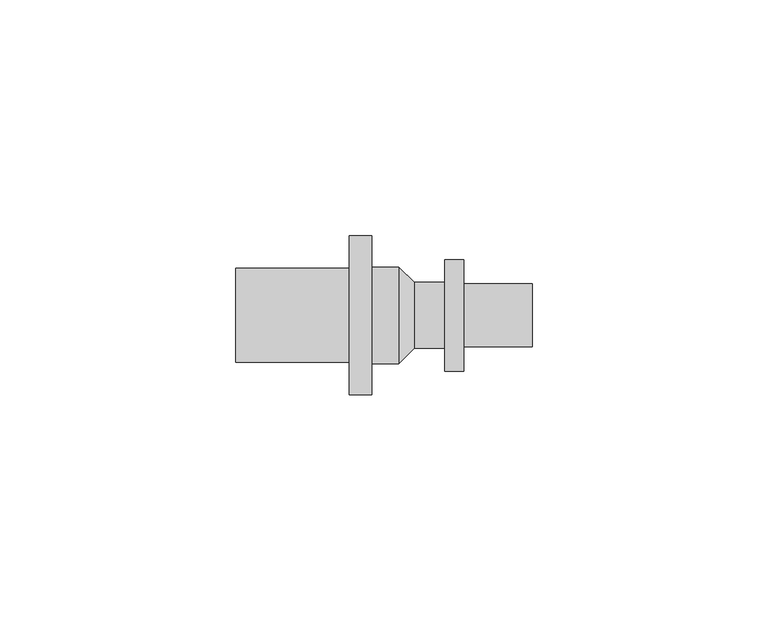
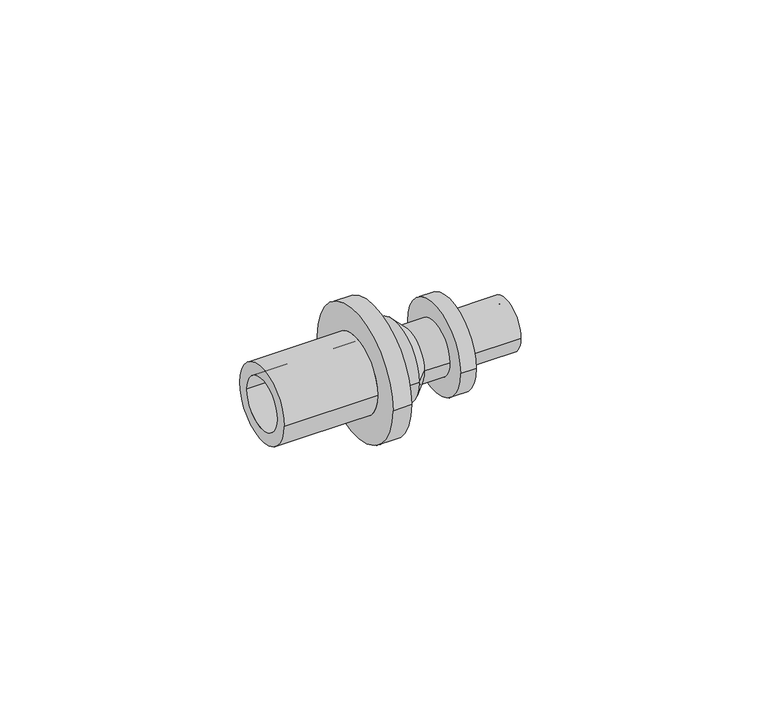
"""IFC4 building model written with IfcOpenShell, lengths in millimetres: pipe fitting geometry, RAUTITAN_Transition_PX : RTI PX Tr DE."""

from ifc_helpers import new_model, si_unit, frame, origin, place, context, project, spatial, polyline, circle_curve, source, transform, mapped, element, save
from ifc_brep_helpers import plane_surface, cylinder_surface, revolved_surface, advanced_brep


def pipe_fitting_32b6f711(model_context):
    return source(origin(), model_context, "Body", "AdvancedBrep", [
        advanced_brep(
        [(-36.15, 6.75, 0.0), (-36.15, -6.75, 0.0), (-1.125, -6.75, 0.0), (-1.125, 6.75, 0.0), (-1.625, 10.25, 0.0), (-1.625, -10.25, 0.0), (-7.35, -10.25, 0.0), (-7.35, 10.25, 0.0), (1.625, 7.0, 0.0), (1.625, -7.0, 0.0), (8.15, 7.0, 0.0), (8.15, -7.0, 0.0), (12.15, 11.8, 0.0), (12.15, -11.8, 0.0), (8.15, -11.8, 0.0), (8.15, 11.8, 0.0), (26.65, 6.7, 0.0), (26.65, -6.7, 0.0), (12.15, -6.7, 0.0), (12.15, 6.7, 0.0), (1.125, 4.5, 0.0), (1.125, -4.5, 0.0), (26.65, -4.5, 0.0), (26.65, 4.5, 0.0), (-7.35, 16.85, 0.0), (-7.35, -16.85, 0.0), (-12.15, 9.95, 0.0), (-12.15, -9.95, 0.0), (-36.15, -9.95, 0.0), (-36.15, 9.95, 0.0), (-12.15, -16.85, 0.0), (-12.15, 16.85, 0.0)],
        [
            (0, 1, circle_curve(frame((-36.15, 0.0, 0.0), z_axis=(-1.0, 0.0, 0.0), x_axis=(0.0, -1.0, 0.0)), 6.75)),
            (1, 2),
            (2, 3, circle_curve(frame((-1.125, 0.0, 0.0), z_axis=(1.0, 0.0, 0.0), x_axis=(0.0, -1.0, 0.0)), 6.75)),
            (3, 0),
            (4, 5, circle_curve(frame((-1.625, 0.0, 0.0), z_axis=(-1.0, 0.0, 0.0), x_axis=(0.0, -1.0, 0.0)), 10.25)),
            (5, 6),
            (6, 7, circle_curve(frame((-7.35, 0.0, 0.0), z_axis=(1.0, 0.0, 0.0), x_axis=(0.0, -1.0, 0.0)), 10.25)),
            (7, 4),
            (8, 9, circle_curve(frame((1.625, 0.0, 0.0), z_axis=(-1.0, 0.0, 0.0), x_axis=(0.0, -1.0, 0.0)), 7.0)),
            (9, 5),
            (4, 8),
            (10, 11, circle_curve(frame((8.15, 0.0, 0.0), z_axis=(-1.0, 0.0, 0.0), x_axis=(0.0, -1.0, 0.0)), 7.0)),
            (11, 9),
            (8, 10),
            (12, 13, circle_curve(frame((12.15, 0.0, 0.0), z_axis=(-1.0, 0.0, 0.0), x_axis=(0.0, -1.0, 0.0)), 11.8)),
            (13, 14),
            (14, 15, circle_curve(frame((8.15, 0.0, 0.0), z_axis=(1.0, 0.0, 0.0), x_axis=(0.0, -1.0, 0.0)), 11.8)),
            (15, 12),
            (16, 17, circle_curve(frame((26.65, 0.0, 0.0), z_axis=(-1.0, 0.0, 0.0), x_axis=(0.0, -1.0, 0.0)), 6.7)),
            (17, 18),
            (18, 19, circle_curve(frame((12.15, 0.0, 0.0), z_axis=(1.0, 0.0, 0.0), x_axis=(0.0, -1.0, 0.0)), 6.7)),
            (19, 16),
            (20, 21, circle_curve(frame((1.125, 0.0, 0.0), z_axis=(-1.0, 0.0, 0.0), x_axis=(0.0, -1.0, 0.0)), 4.5)),
            (21, 22),
            (22, 23, circle_curve(frame((26.65, 0.0, 0.0), z_axis=(1.0, 0.0, 0.0), x_axis=(0.0, -1.0, 0.0)), 4.5)),
            (23, 20),
            (2, 21),
            (20, 3),
            (1, 0, circle_curve(frame((-36.15, 0.0, 0.0), z_axis=(-1.0, 0.0, 0.0), x_axis=(0.0, 1.0, 0.0)), 6.75)),
            (3, 2, circle_curve(frame((-1.125, 0.0, 0.0), z_axis=(1.0, 0.0, 0.0), x_axis=(0.0, 1.0, 0.0)), 6.75)),
            (24, 25, circle_curve(frame((-7.35, 0.0, 0.0), z_axis=(1.0, 0.0, 0.0), x_axis=(0.0, 1.0, 0.0)), 16.85)),
            (25, 24, circle_curve(frame((-7.35, 0.0, 0.0), z_axis=(1.0, 0.0, 0.0), x_axis=(0.0, -1.0, 0.0)), 16.85)),
            (6, 7, circle_curve(frame((-7.35, 0.0, 0.0), z_axis=(-1.0, 0.0, 0.0), x_axis=(0.0, 1.0, 0.0)), 10.25)),
            (5, 4, circle_curve(frame((-1.625, 0.0, 0.0), z_axis=(-1.0, 0.0, 0.0), x_axis=(0.0, 1.0, 0.0)), 10.25)),
            (9, 8, circle_curve(frame((1.625, 0.0, 0.0), z_axis=(-1.0, 0.0, 0.0), x_axis=(0.0, 1.0, 0.0)), 7.0)),
            (11, 10, circle_curve(frame((8.15, 0.0, 0.0), z_axis=(-1.0, 0.0, 0.0), x_axis=(0.0, 1.0, 0.0)), 7.0)),
            (14, 15, circle_curve(frame((8.15, 0.0, 0.0), z_axis=(-1.0, 0.0, 0.0), x_axis=(0.0, 1.0, 0.0)), 11.8)),
            (13, 12, circle_curve(frame((12.15, 0.0, 0.0), z_axis=(-1.0, 0.0, 0.0), x_axis=(0.0, 1.0, 0.0)), 11.8)),
            (18, 19, circle_curve(frame((12.15, 0.0, 0.0), z_axis=(-1.0, 0.0, 0.0), x_axis=(0.0, 1.0, 0.0)), 6.7)),
            (17, 16, circle_curve(frame((26.65, 0.0, 0.0), z_axis=(-1.0, 0.0, 0.0), x_axis=(0.0, 1.0, 0.0)), 6.7)),
            (22, 23, circle_curve(frame((26.65, 0.0, 0.0), z_axis=(-1.0, 0.0, 0.0), x_axis=(0.0, 1.0, 0.0)), 4.5)),
            (21, 20, circle_curve(frame((1.125, 0.0, 0.0), z_axis=(-1.0, 0.0, 0.0), x_axis=(0.0, 1.0, 0.0)), 4.5)),
            (26, 27, circle_curve(frame((-12.15, 0.0, 0.0), z_axis=(-1.0, 0.0, 0.0), x_axis=(0.0, -1.0, 0.0)), 9.95)),
            (27, 28),
            (28, 29, circle_curve(frame((-36.15, 0.0, 0.0), z_axis=(1.0, 0.0, 0.0), x_axis=(0.0, -1.0, 0.0)), 9.95)),
            (29, 26),
            (25, 30),
            (30, 31, circle_curve(frame((-12.15, 0.0, 0.0), z_axis=(1.0, 0.0, 0.0), x_axis=(0.0, -1.0, 0.0)), 16.85)),
            (31, 24),
            (28, 29, circle_curve(frame((-36.15, 0.0, 0.0), z_axis=(-1.0, 0.0, 0.0), x_axis=(0.0, 1.0, 0.0)), 9.95)),
            (27, 26, circle_curve(frame((-12.15, 0.0, 0.0), z_axis=(-1.0, 0.0, 0.0), x_axis=(0.0, 1.0, 0.0)), 9.95)),
            (30, 31, circle_curve(frame((-12.15, 0.0, 0.0), z_axis=(-1.0, 0.0, 0.0), x_axis=(0.0, 1.0, 0.0)), 16.85)),
        ],
        [
            revolved_surface(polyline([(-1.125, -6.75, 0.0), (-36.15, -6.75, 0.0)]), (0.0, 0.0, 0.0), (1.0, 0.0, 0.0)),
            cylinder_surface(frame((0.0, 0.0, 0.0), z_axis=(1.0, 0.0, 0.0), x_axis=(0.0, -1.0, 0.0)), 10.25),
            revolved_surface(polyline([(-1.625, -10.25, 0.0), (1.625, -7.0, 0.0)]), (0.0, 0.0, 0.0), (1.0, 0.0, 0.0)),
            cylinder_surface(frame((0.0, 0.0, 0.0), z_axis=(1.0, 0.0, 0.0), x_axis=(0.0, -1.0, 0.0)), 7.0),
            cylinder_surface(frame((0.0, 0.0, 0.0), z_axis=(1.0, 0.0, 0.0), x_axis=(0.0, -1.0, 0.0)), 11.8),
            cylinder_surface(frame((0.0, 0.0, 0.0), z_axis=(1.0, 0.0, 0.0), x_axis=(0.0, -1.0, 0.0)), 6.7),
            revolved_surface(polyline([(26.65, -4.5, 0.0), (1.125, -4.5, 0.0)]), (0.0, 0.0, 0.0), (1.0, 0.0, 0.0)),
            revolved_surface(polyline([(1.125, -4.5, 0.0), (-1.125, -6.75, 0.0)]), (0.0, 0.0, 0.0), (1.0, 0.0, 0.0)),
            revolved_surface(polyline([(-1.125, 6.75, 0.0), (-36.15, 6.75, 0.0)]), (0.0, 0.0, 0.0), (1.0, 0.0, 0.0)),
            plane_surface(frame((-7.35, 0.0, 0.0), z_axis=(1.0, 0.0, 0.0), x_axis=(0.0, 1.0, 0.0))),
            cylinder_surface(frame((0.0, 0.0, 0.0), z_axis=(1.0, 0.0, 0.0), x_axis=(0.0, 1.0, 0.0)), 10.25),
            revolved_surface(polyline([(-1.625, 10.25, 0.0), (1.625, 7.0, 0.0)]), (0.0, 0.0, 0.0), (1.0, 0.0, 0.0)),
            cylinder_surface(frame((0.0, 0.0, 0.0), z_axis=(1.0, 0.0, 0.0), x_axis=(0.0, 1.0, 0.0)), 7.0),
            plane_surface(frame((8.15, 0.0, 0.0), z_axis=(-1.0, 0.0, 0.0), x_axis=(0.0, 1.0, 0.0))),
            cylinder_surface(frame((0.0, 0.0, 0.0), z_axis=(1.0, 0.0, 0.0), x_axis=(0.0, 1.0, 0.0)), 11.8),
            plane_surface(frame((12.15, 0.0, 0.0), z_axis=(1.0, 0.0, 0.0), x_axis=(0.0, 1.0, 0.0))),
            cylinder_surface(frame((0.0, 0.0, 0.0), z_axis=(1.0, 0.0, 0.0), x_axis=(0.0, 1.0, 0.0)), 6.7),
            plane_surface(frame((26.65, 0.0, 0.0), z_axis=(1.0, 0.0, 0.0), x_axis=(0.0, 1.0, 0.0))),
            revolved_surface(polyline([(26.65, 4.5, 0.0), (1.125, 4.5, 0.0)]), (0.0, 0.0, 0.0), (1.0, 0.0, 0.0)),
            revolved_surface(polyline([(1.125, 4.5, 0.0), (-1.125, 6.75, 0.0)]), (0.0, 0.0, 0.0), (1.0, 0.0, 0.0)),
            cylinder_surface(frame((0.0, 0.0, 0.0), z_axis=(1.0, 0.0, 0.0), x_axis=(0.0, -1.0, 0.0)), 9.95),
            cylinder_surface(frame((0.0, 0.0, 0.0), z_axis=(1.0, 0.0, 0.0), x_axis=(0.0, -1.0, 0.0)), 16.85),
            plane_surface(frame((-36.15, 0.0, 0.0), z_axis=(-1.0, 0.0, 0.0), x_axis=(0.0, 1.0, 0.0))),
            cylinder_surface(frame((0.0, 0.0, 0.0), z_axis=(1.0, 0.0, 0.0), x_axis=(0.0, 1.0, 0.0)), 9.95),
            plane_surface(frame((-12.15, 0.0, 0.0), z_axis=(-1.0, 0.0, 0.0), x_axis=(0.0, 1.0, 0.0))),
            cylinder_surface(frame((0.0, 0.0, 0.0), z_axis=(1.0, 0.0, 0.0), x_axis=(0.0, 1.0, 0.0)), 16.85),
        ],
        [
            (0, [[1, 2, 3, 4]]),
            (1, [[5, 6, 7, 8]]),
            (2, [[9, 10, -5, 11]]),
            (3, [[12, 13, -9, 14]]),
            (4, [[15, 16, 17, 18]]),
            (5, [[19, 20, 21, 22]]),
            (6, [[23, 24, 25, 26]]),
            (7, [[-3, 27, -23, 28]]),
            (8, [[29, -4, 30, -2]]),
            (9, [[31, 32], [33, -7]]),
            (10, [[34, -8, -33, -6]]),
            (11, [[35, -11, -34, -10]]),
            (12, [[36, -14, -35, -13]]),
            (13, [[37, -17], [-36, -12]]),
            (14, [[38, -18, -37, -16]]),
            (15, [[-38, -15], [39, -21]]),
            (16, [[40, -22, -39, -20]]),
            (17, [[-40, -19], [41, -25]]),
            (18, [[42, -26, -41, -24]]),
            (19, [[-30, -28, -42, -27]]),
            (20, [[43, 44, 45, 46]]),
            (21, [[-32, 47, 48, 49]]),
            (22, [[50, -45], [-29, -1]]),
            (23, [[51, -46, -50, -44]]),
            (24, [[52, -48], [-51, -43]]),
            (25, [[-31, -49, -52, -47]]),
        ],
    ),
    ])


if __name__ == "__main__":
    model = new_model("IFC4")
    model_context = context("Model", 3, world=origin())
    ifc_project = project(units=[si_unit("LENGTHUNIT", "METRE", prefix="MILLI")], contexts=[model_context])
    site = spatial("IfcSite", under=ifc_project)
    building = spatial("IfcBuilding", under=site)
    placement = place(None, origin())
    pipe_fitting_shape = pipe_fitting_32b6f711(model_context)
    element("IfcPipeFitting", 1, ObjectType="RAUTITAN_Transition_PX : RTI PX Tr DE", at=placement, inside=building, context=model_context, shape_type="MappedRepresentation", body=[
        mapped(pipe_fitting_shape, transform((0.0, 0.0, 0.0), x_axis=(1.0, 0.0, 0.0), y_axis=(0.0, 1.0, 0.0), z_axis=(0.0, 0.0, 1.0))),
    ])
    save(model, "model.ifc")
